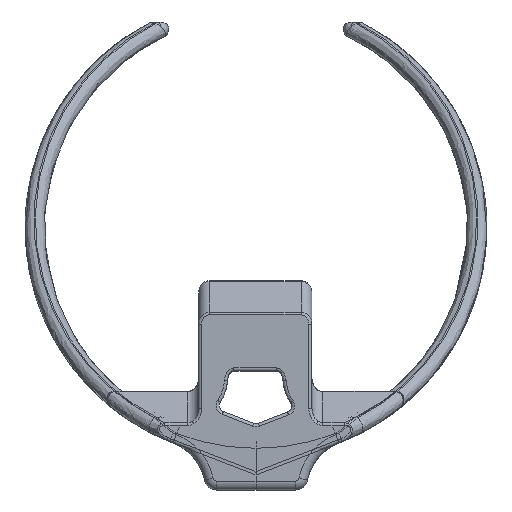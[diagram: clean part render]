
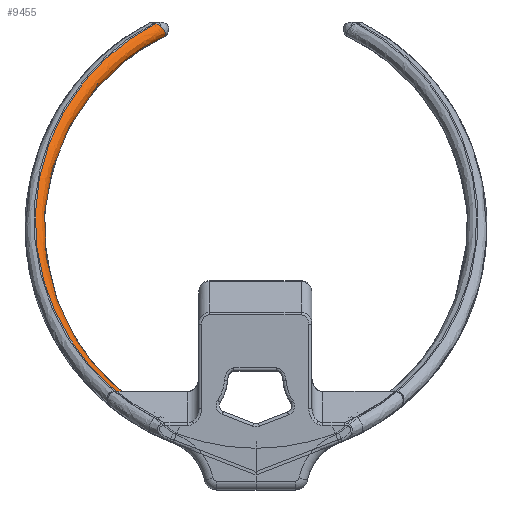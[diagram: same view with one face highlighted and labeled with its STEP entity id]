
A CAD part, front view. The second image highlights one B-rep face of the part: STEP entity #9455.
In plain terms, the highlighted free-form (B-spline) face has degree [3, 2] with [11, 3] control points.
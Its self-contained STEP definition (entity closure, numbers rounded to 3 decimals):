
#9278=CARTESIAN_POINT('',(-15.837,22.524,108.917));
#9279=VERTEX_POINT('',#9278);
#9280=CARTESIAN_POINT('',(-15.536,-66.522,46.566));
#9281=VERTEX_POINT('',#9280);
#9282=CARTESIAN_POINT('',(-15.837,22.524,108.917));
#9283=CARTESIAN_POINT('',(-35.003,8.586,99.157));
#9284=CARTESIAN_POINT('',(-34.9,-22.131,77.649));
#9285=CARTESIAN_POINT('',(-34.796,-52.848,56.141));
#9286=CARTESIAN_POINT('',(-15.536,-66.522,46.566));
#9287=(BOUNDED_CURVE()
B_SPLINE_CURVE(2,(#9282,#9283,#9284,#9285,#9286),.UNSPECIFIED.,.F.,.F.)
B_SPLINE_CURVE_WITH_KNOTS((3,2,3),(26.434,89.724,153.014),.UNSPECIFIED.)
CURVE()
GEOMETRIC_REPRESENTATION_ITEM()
RATIONAL_B_SPLINE_CURVE((1.,0.851,1.,0.851,1.))
REPRESENTATION_ITEM(''));
#9288=EDGE_CURVE('',#9279,#9281,#9287,.T.);
#9330=CARTESIAN_POINT('',(-15.536,-66.522,46.566));
#9331=CARTESIAN_POINT('',(-15.177,-66.182,46.804));
#9332=CARTESIAN_POINT('',(-14.913,-65.719,46.672));
#9333=CARTESIAN_POINT('',(-18.463,-64.444,48.02));
#9334=CARTESIAN_POINT('',(-18.057,-64.093,48.266));
#9335=CARTESIAN_POINT('',(-17.722,-63.641,48.069));
#9336=CARTESIAN_POINT('',(-23.903,-59.108,51.757));
#9337=CARTESIAN_POINT('',(-23.432,-58.65,52.078));
#9338=CARTESIAN_POINT('',(-22.945,-58.305,51.656));
#9339=CARTESIAN_POINT('',(-30.191,-48.185,59.405));
#9340=CARTESIAN_POINT('',(-29.472,-47.664,59.77));
#9341=CARTESIAN_POINT('',(-28.98,-47.382,58.997));
#9342=CARTESIAN_POINT('',(-34.112,-35.201,68.497));
#9343=CARTESIAN_POINT('',(-33.08,-34.637,68.892));
#9344=CARTESIAN_POINT('',(-32.743,-34.398,67.724));
#9345=CARTESIAN_POINT('',(-35.358,-21.174,78.319));
#9346=CARTESIAN_POINT('',(-33.933,-20.624,78.704));
#9347=CARTESIAN_POINT('',(-33.94,-20.371,77.152));
#9348=CARTESIAN_POINT('',(-33.833,-7.203,88.101));
#9349=CARTESIAN_POINT('',(-31.923,-6.785,88.394));
#9350=CARTESIAN_POINT('',(-32.476,-6.4,86.542));
#9351=CARTESIAN_POINT('',(-29.656,5.617,97.078));
#9352=CARTESIAN_POINT('',(-27.189,5.685,97.125));
#9353=CARTESIAN_POINT('',(-28.466,6.42,95.158));
#9354=CARTESIAN_POINT('',(-23.257,16.11,104.426));
#9355=CARTESIAN_POINT('',(-20.298,15.422,103.943));
#9356=CARTESIAN_POINT('',(-22.324,16.913,102.211));
#9357=CARTESIAN_POINT('',(-17.873,21.149,107.953));
#9358=CARTESIAN_POINT('',(-15.259,19.335,106.683));
#9359=CARTESIAN_POINT('',(-17.156,21.952,105.598));
#9360=CARTESIAN_POINT('',(-15.066,23.068,109.297));
#9361=CARTESIAN_POINT('',(-12.752,20.795,107.706));
#9362=CARTESIAN_POINT('',(-14.462,23.871,106.887));
#9363=(BOUNDED_SURFACE()
B_SPLINE_SURFACE(3,2,((#9330,#9331,#9332),(#9333,#9334,#9335),(#9336,#9337,#9338),(#9339,#9340,#9341),(#9342,#9343,#9344),(#9345,#9346,#9347),(#9348,#9349,#9350),(#9351,#9352,#9353),(#9354,#9355,#9356),(#9357,#9358,#9359),(#9360,#9361,#9362)),.UNSPECIFIED.,.F.,.F.,.U.)
B_SPLINE_SURFACE_WITH_KNOTS((4,1,1,1,1,1,1,1,4),(3,3),(0.461,0.742,1.023,1.304,1.585,1.866,2.147,2.428,2.695),(0.,1.),.UNSPECIFIED.)
GEOMETRIC_REPRESENTATION_ITEM()
RATIONAL_B_SPLINE_SURFACE(((1.,0.931,1.),(1.,0.922,1.),(1.,0.898,1.),(1.,0.847,1.),(1.,0.782,1.),(1.,0.705,1.),(1.,0.618,1.),(1.,0.526,1.),(1.,0.436,1.),(1.,0.383,1.),(1.,0.361,1.)))
REPRESENTATION_ITEM('')
SURFACE()
);
#9364=CARTESIAN_POINT('',(-14.913,-65.719,46.672));
#9365=VERTEX_POINT('',#9364);
#9366=CARTESIAN_POINT('',(-14.462,23.871,106.887));
#9367=VERTEX_POINT('',#9366);
#9368=CARTESIAN_POINT('',(-14.913,-65.719,46.672));
#9369=CARTESIAN_POINT('',(-16.309,-64.686,47.367));
#9370=CARTESIAN_POINT('',(-17.657,-63.508,48.158));
#9371=CARTESIAN_POINT('',(-18.943,-62.196,49.04));
#9372=CARTESIAN_POINT('',(-20.228,-60.885,49.921));
#9373=CARTESIAN_POINT('',(-21.453,-59.44,50.893));
#9374=CARTESIAN_POINT('',(-22.603,-57.875,51.945));
#9375=CARTESIAN_POINT('',(-23.754,-56.31,52.997));
#9376=CARTESIAN_POINT('',(-24.831,-54.625,54.129));
#9377=CARTESIAN_POINT('',(-25.824,-52.836,55.331));
#9378=CARTESIAN_POINT('',(-26.817,-51.048,56.533));
#9379=CARTESIAN_POINT('',(-27.726,-49.157,57.804));
#9380=CARTESIAN_POINT('',(-28.543,-47.181,59.132));
#9381=CARTESIAN_POINT('',(-29.359,-45.205,60.461));
#9382=CARTESIAN_POINT('',(-30.082,-43.143,61.846));
#9383=CARTESIAN_POINT('',(-30.705,-41.017,63.275));
#9384=CARTESIAN_POINT('',(-31.329,-38.891,64.704));
#9385=CARTESIAN_POINT('',(-31.852,-36.7,66.176));
#9386=CARTESIAN_POINT('',(-32.271,-34.466,67.678));
#9387=CARTESIAN_POINT('',(-32.689,-32.231,69.18));
#9388=CARTESIAN_POINT('',(-33.003,-29.953,70.711));
#9389=CARTESIAN_POINT('',(-33.208,-27.654,72.257));
#9390=CARTESIAN_POINT('',(-33.413,-25.355,73.802));
#9391=CARTESIAN_POINT('',(-33.511,-23.034,75.362));
#9392=CARTESIAN_POINT('',(-33.499,-20.714,76.921));
#9393=CARTESIAN_POINT('',(-33.487,-18.395,78.48));
#9394=CARTESIAN_POINT('',(-33.367,-16.077,80.038));
#9395=CARTESIAN_POINT('',(-33.138,-13.782,81.58));
#9396=CARTESIAN_POINT('',(-32.91,-11.488,83.123));
#9397=CARTESIAN_POINT('',(-32.573,-9.217,84.649));
#9398=CARTESIAN_POINT('',(-32.132,-6.992,86.144));
#9399=CARTESIAN_POINT('',(-31.691,-4.767,87.64));
#9400=CARTESIAN_POINT('',(-31.146,-2.588,89.104));
#9401=CARTESIAN_POINT('',(-30.501,-0.476,90.524));
#9402=CARTESIAN_POINT('',(-29.857,1.636,91.943));
#9403=CARTESIAN_POINT('',(-29.113,3.681,93.317));
#9404=CARTESIAN_POINT('',(-28.277,5.639,94.633));
#9405=CARTESIAN_POINT('',(-27.441,7.597,95.949));
#9406=CARTESIAN_POINT('',(-26.513,9.467,97.207));
#9407=CARTESIAN_POINT('',(-25.502,11.233,98.394));
#9408=CARTESIAN_POINT('',(-24.491,12.999,99.58));
#9409=CARTESIAN_POINT('',(-23.397,14.66,100.697));
#9410=CARTESIAN_POINT('',(-22.23,16.199,101.731));
#9411=CARTESIAN_POINT('',(-21.064,17.738,102.766));
#9412=CARTESIAN_POINT('',(-19.825,19.155,103.719));
#9413=CARTESIAN_POINT('',(-18.526,20.438,104.581));
#9414=CARTESIAN_POINT('',(-17.227,21.721,105.443));
#9415=CARTESIAN_POINT('',(-15.868,22.869,106.214));
#9416=CARTESIAN_POINT('',(-14.462,23.871,106.887));
#9417=B_SPLINE_CURVE_WITH_KNOTS('',3,(#9368,#9369,#9370,#9371,#9372,#9373,#9374,#9375,#9376,#9377,#9378,#9379,#9380,#9381,#9382,#9383,#9384,#9385,#9386,#9387,#9388,#9389,#9390,#9391,#9392,#9393,
#9394,#9395,#9396,#9397,#9398,#9399,#9400,#9401,#9402,#9403,#9404,#9405,#9406,#9407,#9408,#9409,#9410,#9411,#9412,#9413,#9414,#9415,#9416),.UNSPECIFIED.,.F.,.F.,(4,3,3,3,3,3,3,3,3,3,3,3,3,3,3,3,4),(205.575,213.575,221.574,229.574,237.573,245.572,253.572,261.571,269.571,277.57,285.569,293.569,301.568,309.568,317.567,325.566,333.566),.UNSPECIFIED.);
#9418=EDGE_CURVE('',#9365,#9367,#9417,.T.);
#9419=ORIENTED_EDGE('',*,*,#9418,.T.);
#9420=CARTESIAN_POINT('',(-15.08,22.339,108.478));
#9421=VERTEX_POINT('',#9420);
#9422=CARTESIAN_POINT('',(-15.08,22.339,108.478));
#9423=CARTESIAN_POINT('',(-14.919,22.336,108.329));
#9424=CARTESIAN_POINT('',(-14.774,22.376,108.166));
#9425=CARTESIAN_POINT('',(-14.654,22.453,108.002));
#9426=CARTESIAN_POINT('',(-14.535,22.53,107.838));
#9427=CARTESIAN_POINT('',(-14.442,22.644,107.674));
#9428=CARTESIAN_POINT('',(-14.382,22.786,107.523));
#9429=CARTESIAN_POINT('',(-14.322,22.929,107.371));
#9430=CARTESIAN_POINT('',(-14.296,23.101,107.232));
#9431=CARTESIAN_POINT('',(-14.309,23.288,107.122));
#9432=CARTESIAN_POINT('',(-14.322,23.474,107.012));
#9433=CARTESIAN_POINT('',(-14.373,23.675,106.93));
#9434=CARTESIAN_POINT('',(-14.462,23.871,106.887));
#9435=B_SPLINE_CURVE_WITH_KNOTS('',3,(#9422,#9423,#9424,#9425,#9426,#9427,#9428,#9429,#9430,#9431,#9432,#9433,#9434),.UNSPECIFIED.,.F.,.F.,(4,3,3,3,4),(0.,0.001,0.001,0.002,0.003),.UNSPECIFIED.);
#9436=EDGE_CURVE('',#9421,#9367,#9435,.T.);
#9437=ORIENTED_EDGE('',*,*,#9436,.F.);
#9438=CARTESIAN_POINT('',(-15.837,22.524,108.917));
#9439=CARTESIAN_POINT('',(-15.571,22.41,108.836));
#9440=CARTESIAN_POINT('',(-15.304,22.342,108.683));
#9441=CARTESIAN_POINT('',(-15.08,22.339,108.478));
#9442=B_SPLINE_CURVE_WITH_KNOTS('',3,(#9438,#9439,#9440,#9441),.UNSPECIFIED.,.F.,.F.,(4,4),(0.,0.001),.UNSPECIFIED.);
#9443=EDGE_CURVE('',#9279,#9421,#9442,.T.);
#9444=ORIENTED_EDGE('',*,*,#9443,.F.);
#9445=ORIENTED_EDGE('',*,*,#9288,.T.);
#9446=CARTESIAN_POINT('',(-15.536,-65.719,45.419));
#9447=DIRECTION('',(-0.756,0.537,0.376));
#9448=DIRECTION('',(0.,-0.574,0.819));
#9449=AXIS2_PLACEMENT_3D('',#9446,#9447,#9448);
#9450=CIRCLE('',#9449,1.4);
#9451=EDGE_CURVE('',#9281,#9365,#9450,.T.);
#9452=ORIENTED_EDGE('',*,*,#9451,.T.);
#9453=EDGE_LOOP('',(#9419,#9437,#9444,#9445,#9452));
#9454=FACE_BOUND('',#9453,.T.);
#9455=ADVANCED_FACE('',(#9454),#9363,.F.);
